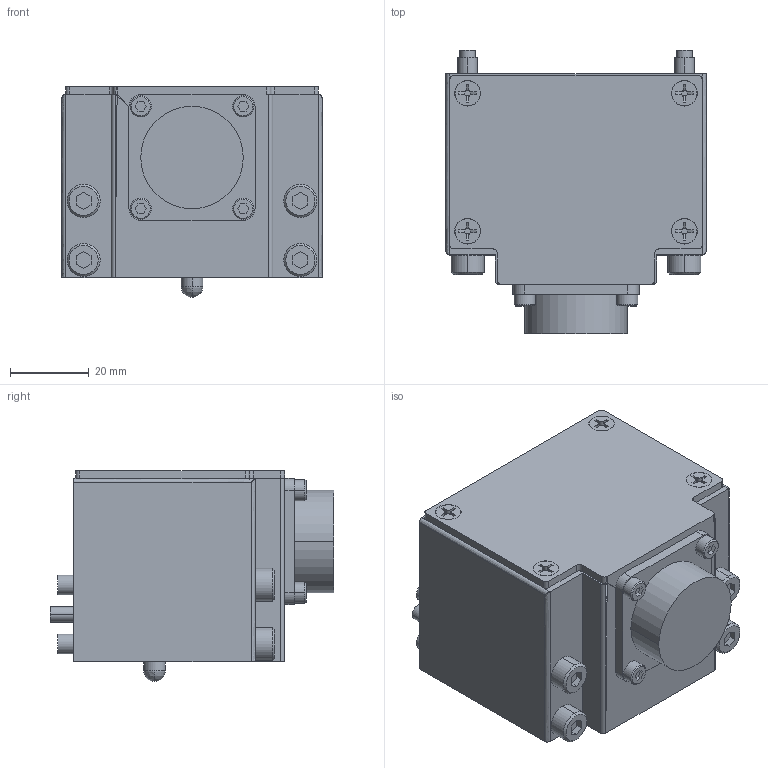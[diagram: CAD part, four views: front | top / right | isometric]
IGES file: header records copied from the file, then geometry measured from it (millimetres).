
Start section: 3D InterOp IGES (v. 2022 1.0.0), Spatial Corp. Copyright (c) 1999-2020.
Global section: file name: KHB-45~300RS-D1010C_ver1.igs; native system: Spatial Corp.; preprocessor: 3D InterOp GENERIC/IGES 3.0; author: Noname; organization: Noname; date: 20260427.144701; units: millimetre
Bounding box: 66 x 72 x 53.5 mm (x, y, z)
Surface area: 32078.9 mm2 (no closed solid volume)
Topology: 0 solids, 0 shells, 629 faces, 2902 edges, 2898 vertices
Faces by surface type: extrusion 356, revolution 273
